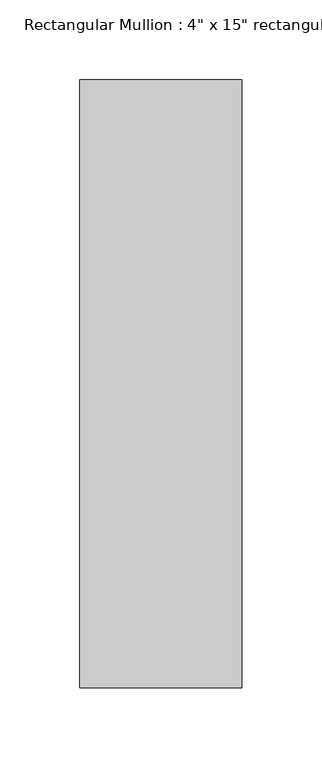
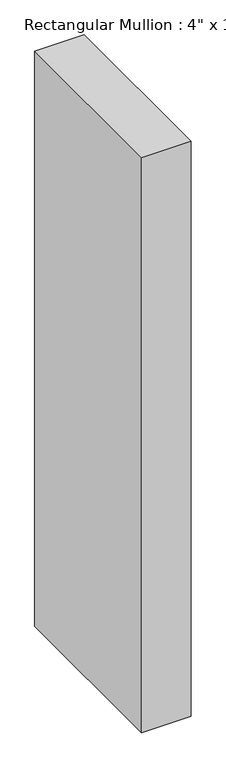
"""IFC4 building model written with IfcOpenShell, lengths in millimetres: member geometry."""

from ifc_helpers import new_model, si_unit, frame, origin, place, context, project, spatial, polyline, outline, extrude, source, transform, mapped, element, save


def member_2c39890d(model_context):
    return source(origin(), model_context, "Body", "SweptSolid", [
        extrude(outline(polyline([(0.0, 63.5), (0.0, -317.5), (-101.6, -317.5), (-101.6, 63.5), (0.0, 63.5)])), frame((0.0, 0.0, -1250.95), z_axis=(0.0, 0.0, 1.0), x_axis=(1.0, 0.0, 0.0)), (0.0, 0.0, 1.0), 1250.95),
    ])


if __name__ == "__main__":
    model = new_model("IFC4")
    model_context = context("Model", 3, world=origin())
    ifc_project = project(units=[si_unit("LENGTHUNIT", "METRE", prefix="MILLI")], contexts=[model_context])
    site = spatial("IfcSite", under=ifc_project)
    building = spatial("IfcBuilding", under=site)
    placement = place(None, origin())
    member_shape = member_2c39890d(model_context)
    element("IfcMember", 1, ObjectType="Rectangular Mullion : 4\" x 15\" rectangular", at=placement, inside=building, context=model_context, shape_type="MappedRepresentation", body=[
        mapped(member_shape, transform((0.0, 0.0, 0.0), x_axis=(1.0, 0.0, 0.0), y_axis=(0.0, 1.0, 0.0), z_axis=(0.0, 0.0, 1.0))),
    ])
    save(model, "model.ifc")
